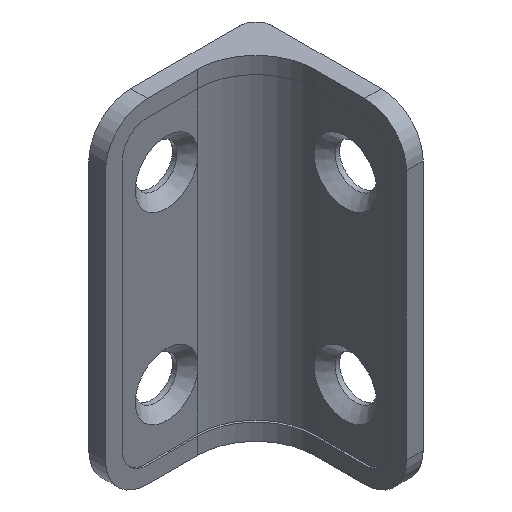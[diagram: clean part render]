
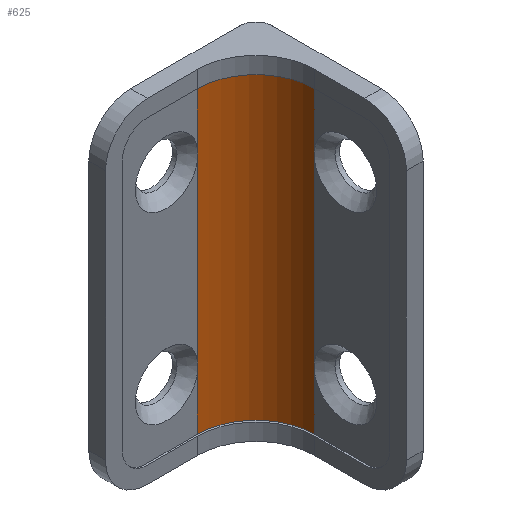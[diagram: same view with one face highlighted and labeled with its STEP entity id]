
A CAD part, isometric view. The second image highlights one B-rep face of the part: STEP entity #625.
In plain terms, the highlighted cylindrical face has radius 7 mm (diameter 14 mm), a partial arc.
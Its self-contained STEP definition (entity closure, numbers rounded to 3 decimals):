
#45=FACE_OUTER_BOUND('',#79,.T.);
#79=EDGE_LOOP('',(#425,#426,#427,#428,#429,#430,#431,#432,#433,#434,#435,
#436));
#125=CIRCLE('',#662,7.);
#126=CIRCLE('',#663,7.);
#161=LINE('',#937,#213);
#162=LINE('',#941,#214);
#163=LINE('',#950,#215);
#164=LINE('',#959,#216);
#165=LINE('',#963,#217);
#166=LINE('',#972,#218);
#213=VECTOR('',#735,6.39);
#214=VECTOR('',#738,6.39);
#215=VECTOR('',#739,20.779);
#216=VECTOR('',#740,6.39);
#217=VECTOR('',#743,6.39);
#218=VECTOR('',#744,20.779);
#265=B_SPLINE_CURVE_WITH_KNOTS('',3,(#929,#930,#931,#932,#933,#934,#935),
 .UNSPECIFIED.,.F.,.F.,(4,3,4),(10.164,10.228,10.293),
 .UNSPECIFIED.);
#266=B_SPLINE_CURVE_WITH_KNOTS('',3,(#943,#944,#945,#946,#947,#948),
 .UNSPECIFIED.,.F.,.F.,(4,2,4),(5.049,5.114,5.179),
 .UNSPECIFIED.);
#267=B_SPLINE_CURVE_WITH_KNOTS('',3,(#952,#953,#954,#955,#956,#957),
 .UNSPECIFIED.,.F.,.F.,(4,2,4),(5.049,5.114,5.179),
 .UNSPECIFIED.);
#268=B_SPLINE_CURVE_WITH_KNOTS('',3,(#965,#966,#967,#968,#969,#970,#971),
 .UNSPECIFIED.,.F.,.F.,(4,3,4),(10.164,10.228,10.293),
 .UNSPECIFIED.);
#269=VERTEX_POINT('',#927);
#270=VERTEX_POINT('',#928);
#271=VERTEX_POINT('',#936);
#272=VERTEX_POINT('',#938);
#273=VERTEX_POINT('',#940);
#274=VERTEX_POINT('',#942);
#275=VERTEX_POINT('',#949);
#276=VERTEX_POINT('',#951);
#277=VERTEX_POINT('',#958);
#278=VERTEX_POINT('',#960);
#279=VERTEX_POINT('',#962);
#280=VERTEX_POINT('',#964);
#333=EDGE_CURVE('',#269,#270,#265,.F.);
#334=EDGE_CURVE('',#269,#271,#161,.T.);
#335=EDGE_CURVE('',#272,#271,#125,.T.);
#336=EDGE_CURVE('',#272,#273,#162,.T.);
#337=EDGE_CURVE('',#274,#273,#266,.F.);
#338=EDGE_CURVE('',#274,#275,#163,.T.);
#339=EDGE_CURVE('',#276,#275,#267,.F.);
#340=EDGE_CURVE('',#276,#277,#164,.T.);
#341=EDGE_CURVE('',#278,#277,#126,.T.);
#342=EDGE_CURVE('',#278,#279,#165,.T.);
#343=EDGE_CURVE('',#280,#279,#268,.F.);
#344=EDGE_CURVE('',#280,#270,#166,.T.);
#425=ORIENTED_EDGE('',*,*,#333,.F.);
#426=ORIENTED_EDGE('',*,*,#334,.T.);
#427=ORIENTED_EDGE('',*,*,#335,.F.);
#428=ORIENTED_EDGE('',*,*,#336,.T.);
#429=ORIENTED_EDGE('',*,*,#337,.F.);
#430=ORIENTED_EDGE('',*,*,#338,.T.);
#431=ORIENTED_EDGE('',*,*,#339,.F.);
#432=ORIENTED_EDGE('',*,*,#340,.T.);
#433=ORIENTED_EDGE('',*,*,#341,.F.);
#434=ORIENTED_EDGE('',*,*,#342,.T.);
#435=ORIENTED_EDGE('',*,*,#343,.F.);
#436=ORIENTED_EDGE('',*,*,#344,.T.);
#609=CYLINDRICAL_SURFACE('',#661,7.);
#625=ADVANCED_FACE('',(#45),#609,.F.);
#661=AXIS2_PLACEMENT_3D('',#926,#733,#734);
#662=AXIS2_PLACEMENT_3D('',#939,#736,#737);
#663=AXIS2_PLACEMENT_3D('',#961,#741,#742);
#733=DIRECTION('center_axis',(0.,0.,1.));
#734=DIRECTION('ref_axis',(0.707,0.707,0.));
#735=DIRECTION('',(0.,0.,-1.));
#736=DIRECTION('center_axis',(0.,0.,1.));
#737=DIRECTION('ref_axis',(0.707,0.707,0.));
#738=DIRECTION('',(0.,0.,1.));
#739=DIRECTION('',(0.,0.,1.));
#740=DIRECTION('',(0.,0.,1.));
#741=DIRECTION('center_axis',(0.,0.,-1.));
#742=DIRECTION('ref_axis',(0.707,0.707,0.));
#743=DIRECTION('',(0.,0.,-1.));
#744=DIRECTION('',(0.,0.,-1.));
#926=CARTESIAN_POINT('Origin',(-8.8,-6.8,0.));
#927=CARTESIAN_POINT('',(-8.8,0.2,-11.61));
#928=CARTESIAN_POINT('',(-8.8,0.2,-10.39));
#929=CARTESIAN_POINT('Ctrl Pts',(-8.8,0.2,-10.39));
#930=CARTESIAN_POINT('Ctrl Pts',(-8.768,0.2,-10.582));
#931=CARTESIAN_POINT('Ctrl Pts',(-8.75,0.2,-10.784));
#932=CARTESIAN_POINT('Ctrl Pts',(-8.75,0.2,-11.));
#933=CARTESIAN_POINT('Ctrl Pts',(-8.75,0.2,-11.216));
#934=CARTESIAN_POINT('Ctrl Pts',(-8.768,0.2,-11.418));
#935=CARTESIAN_POINT('Ctrl Pts',(-8.8,0.2,-11.61));
#936=CARTESIAN_POINT('',(-8.8,0.2,-18.));
#937=CARTESIAN_POINT('',(-8.8,0.2,0.));
#938=CARTESIAN_POINT('',(-1.8,-6.8,-18.));
#939=CARTESIAN_POINT('Origin',(-8.8,-6.8,-18.));
#940=CARTESIAN_POINT('',(-1.8,-6.8,-11.61));
#941=CARTESIAN_POINT('',(-1.8,-6.8,0.));
#942=CARTESIAN_POINT('',(-1.8,-6.8,-10.39));
#943=CARTESIAN_POINT('Ctrl Pts',(-1.8,-6.8,-11.61));
#944=CARTESIAN_POINT('Ctrl Pts',(-1.8,-6.768,-11.418));
#945=CARTESIAN_POINT('Ctrl Pts',(-1.8,-6.75,-11.216));
#946=CARTESIAN_POINT('Ctrl Pts',(-1.8,-6.75,-10.784));
#947=CARTESIAN_POINT('Ctrl Pts',(-1.8,-6.768,-10.582));
#948=CARTESIAN_POINT('Ctrl Pts',(-1.8,-6.8,-10.39));
#949=CARTESIAN_POINT('',(-1.8,-6.8,10.39));
#950=CARTESIAN_POINT('',(-1.8,-6.8,0.));
#951=CARTESIAN_POINT('',(-1.8,-6.8,11.61));
#952=CARTESIAN_POINT('Ctrl Pts',(-1.8,-6.8,10.39));
#953=CARTESIAN_POINT('Ctrl Pts',(-1.8,-6.768,10.582));
#954=CARTESIAN_POINT('Ctrl Pts',(-1.8,-6.75,10.784));
#955=CARTESIAN_POINT('Ctrl Pts',(-1.8,-6.75,11.216));
#956=CARTESIAN_POINT('Ctrl Pts',(-1.8,-6.768,11.418));
#957=CARTESIAN_POINT('Ctrl Pts',(-1.8,-6.8,11.61));
#958=CARTESIAN_POINT('',(-1.8,-6.8,18.));
#959=CARTESIAN_POINT('',(-1.8,-6.8,0.));
#960=CARTESIAN_POINT('',(-8.8,0.2,18.));
#961=CARTESIAN_POINT('Origin',(-8.8,-6.8,18.));
#962=CARTESIAN_POINT('',(-8.8,0.2,11.61));
#963=CARTESIAN_POINT('',(-8.8,0.2,0.));
#964=CARTESIAN_POINT('',(-8.8,0.2,10.39));
#965=CARTESIAN_POINT('Ctrl Pts',(-8.8,0.2,11.61));
#966=CARTESIAN_POINT('Ctrl Pts',(-8.768,0.2,11.418));
#967=CARTESIAN_POINT('Ctrl Pts',(-8.75,0.2,11.216));
#968=CARTESIAN_POINT('Ctrl Pts',(-8.75,0.2,11.));
#969=CARTESIAN_POINT('Ctrl Pts',(-8.75,0.2,10.784));
#970=CARTESIAN_POINT('Ctrl Pts',(-8.768,0.2,10.582));
#971=CARTESIAN_POINT('Ctrl Pts',(-8.8,0.2,10.39));
#972=CARTESIAN_POINT('',(-8.8,0.2,0.));
